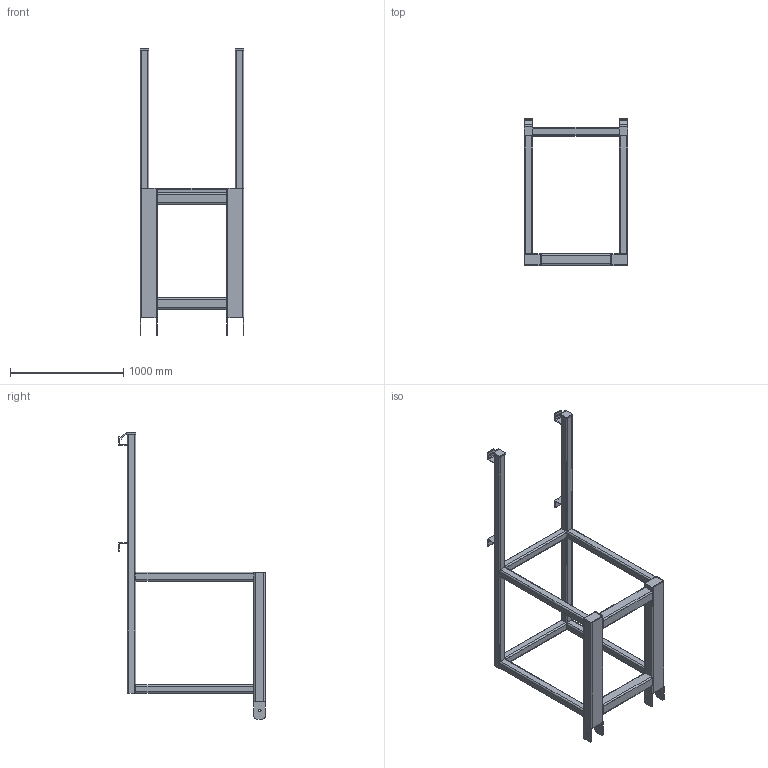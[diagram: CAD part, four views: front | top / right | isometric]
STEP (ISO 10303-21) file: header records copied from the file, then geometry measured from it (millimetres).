
FILE_DESCRIPTION(/* description */ ('High Lift Bulk Bag Adapter'),/* implementation_level */ '2;1');
FILE_NAME(/* name */ 'B:\200-HL\Bag Hook\BagLift-200HL.stp',/* time_stamp */ '2021-05-13T07:18:24-05:00',/* author */ ('rwest'),/* organization */ (''),/* preprocessor_version */ 'ST-DEVELOPER v17',/* originating_system */ 'Autodesk Inventor 2019',/* authorisation */ '');
FILE_SCHEMA (('AUTOMOTIVE_DESIGN { 1 0 10303 214 3 1 1 }'));
Length unit declared in the file: inch
Products named in the file (11): 003163; AISC - 6x4x1_4 - 45; AISC - 4x4x1_4 - 24; AISC - 3x3x1_4 - 41; AISC - 3x3x1_4 - 90; AISC - 3x3x1_4 - 30; 4 x 6 x 1_4 Plate; 3.5 x 5.5 x 1_4 Plate; 3 x 3 x 0.1345 Endcap; AISC - L 3 x 3 x 1/4 - 3; AISC - 5.737x3 - 0.5
Assembly tree (26 placements, depth 2):
  003163
    AISC - 6x4x1_4 - 45  x2
    AISC - 4x4x1_4 - 24  x2
    AISC - 3x3x1_4 - 41  x4
    AISC - 3x3x1_4 - 90  x2
    AISC - 3x3x1_4 - 30  x2
    4 x 6 x 1_4 Plate  x4
    3.5 x 5.5 x 1_4 Plate  x2
    3 x 3 x 0.1345 Endcap  x2
    AISC - L 3 x 3 x 1/4 - 3  x4
    AISC - 5.737x3 - 0.5  x2
Bounding box: 914.4 x 1295.4 x 2527.3 mm (x, y, z)
Volume: 27857651.6 mm3; surface area: 8826333.2 mm2
Topology: 26 solids, 26 shells, 364 faces, 920 edges, 608 vertices
Faces by surface type: plane 224, cylinder 140
Full cylindrical faces by diameter (mm): 25.4 x4
Entity records: 4938 total; most frequent: DIRECTION 840, CARTESIAN_POINT 786, ORIENTED_EDGE 728, EDGE_CURVE 364, AXIS2_PLACEMENT_3D 294, LINE 252, VECTOR 252, VERTEX_POINT 240
